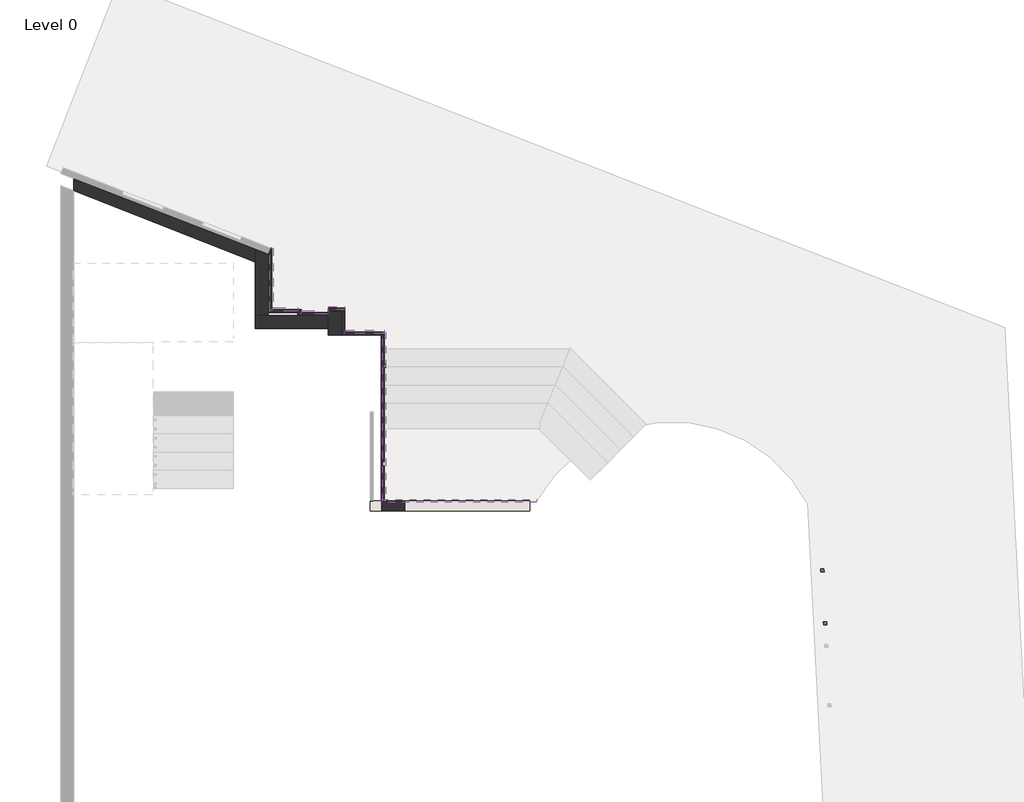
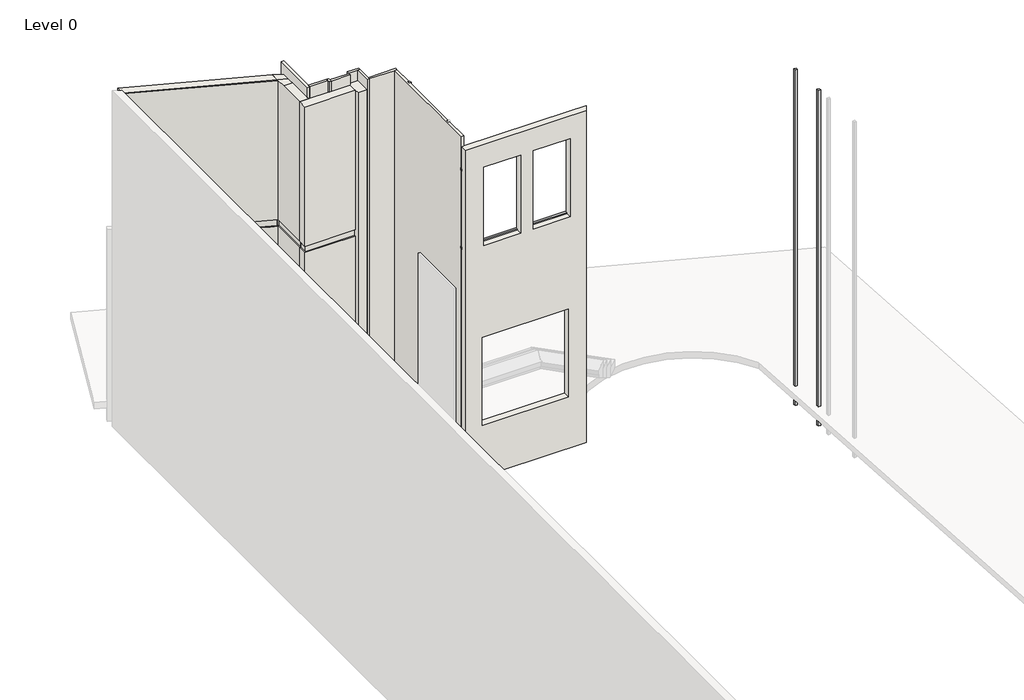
# One storey, part 2 of 6: 14 proxies, 13 walls.
"""IFC4 building model written with IfcOpenShell, lengths in millimetres."""

from ifc_helpers import new_model, si_unit, frame, origin, origin_with_axes, place, context, project, spatial, polyline, circle_curve, outline, extrude, faceted_brep, element, save
from ifc_brep_helpers import plane_surface, revolved_surface, advanced_brep

model = new_model("IFC4")

# Units and contexts
model_context = context("Model", 3, world=origin())
ifc_project = project(units=[si_unit("LENGTHUNIT", "METRE", prefix="MILLI")], contexts=[model_context])

# Site, building, storey
site = spatial("IfcSite", under=ifc_project)
building = spatial("IfcBuilding", under=site)
storey = spatial("IfcBuildingStorey", under=building, Name="Level 0", Elevation=0.0)

# Proxies
placement = place(None, origin())
element("IfcBuildingElementProxy", 1, Name="Reveal", ObjectType="Reveal", at=placement, inside=storey, context=model_context, shape_type="SweptSolid", body=[
    extrude(outline(polyline([(11423.4293749, 9089.7572087), (11473.3646878, 9092.299753), (11475.9072321, 9042.3644402), (11425.9719192, 9039.8218959), (11423.4293749, 9089.7572087)])), origin_with_axes(), (0.0, 0.0, 1.0), 7850.0),
])
element("IfcBuildingElementProxy", 2, Name="Reveal", ObjectType="Reveal", at=placement, inside=storey, context=model_context, shape_type="SweptSolid", body=[
    extrude(outline(polyline([(11464.8728464, 8275.8116094), (11514.8081593, 8278.3541537), (11517.3507035, 8228.4188408), (11467.4153907, 8225.8762966), (11464.8728464, 8275.8116094)])), origin_with_axes(), (0.0, 0.0, 1.0), 7850.0),
])
element("IfcBuildingElementProxy", 3, Name="Reveal", ObjectType="Reveal", at=placement, inside=storey, context=model_context, shape_type="SweptSolid", body=[
    extrude(outline(polyline([(2963.093022, 14021.3286894), (3013.093022, 14021.3286894), (3013.093022, 13076.3286894), (2963.093022, 13076.3286894), (2963.093022, 14021.3286894)])), frame((0.0, 0.0, 5475.0), z_axis=(0.0, 0.0, 1.0), x_axis=(1.0, 0.0, 0.0)), (0.0, 0.0, 1.0), 50.0),
])
element("IfcBuildingElementProxy", 4, Name="Reveal", ObjectType="Reveal", at=placement, inside=storey, context=model_context, shape_type="SweptSolid", body=[
    extrude(outline(polyline([(2963.093022, 14021.3286894), (3013.093022, 14021.3286894), (3013.093022, 13076.3286894), (2963.093022, 13076.3286894), (2963.093022, 14021.3286894)])), frame((0.0, 0.0, 3675.0), z_axis=(0.0, 0.0, 1.0), x_axis=(1.0, 0.0, 0.0)), (0.0, 0.0, 1.0), 50.0),
])
element("IfcBuildingElementProxy", 5, Name="Reveal", ObjectType="Reveal", at=placement, inside=storey, context=model_context, shape_type="SweptSolid", body=[
    extrude(outline(polyline([(2963.093022, 14021.3286894), (3013.093022, 14021.3286894), (3013.093022, 13076.3286894), (2963.093022, 13076.3286894), (2963.093022, 14021.3286894)])), frame((0.0, 0.0, 1895.0), z_axis=(0.0, 0.0, 1.0), x_axis=(1.0, 0.0, 0.0)), (0.0, 0.0, 1.0), 50.0),
])
element("IfcBuildingElementProxy", 6, Name="Reveal", ObjectType="Reveal", at=placement, inside=storey, context=model_context, shape_type="SweptSolid", body=[
    extrude(outline(polyline([(2963.093022, 14021.3286894), (3013.093022, 14021.3286894), (3013.093022, 13101.3286894), (2963.093022, 13051.3286894), (2963.093022, 14021.3286894)])), frame((0.0, 0.0, 7170.0), z_axis=(0.0, 0.0, 1.0), x_axis=(1.0, 0.0, 0.0)), (0.0, 0.0, 1.0), 50.0),
])
element("IfcBuildingElementProxy", 7, Name="Reveal", ObjectType="Reveal", at=placement, inside=storey, context=model_context, shape_type="SweptSolid", body=[
    extrude(outline(polyline([(2963.093022, 13051.3286894), (3013.093022, 13101.3286894), (3389.832395, 13101.3286894), (3389.832395, 13051.3286894), (2963.093022, 13051.3286894)])), frame((0.0, 0.0, 7170.0), z_axis=(0.0, 0.0, 1.0), x_axis=(1.0, 0.0, 0.0)), (0.0, 0.0, 1.0), 50.0),
])
element("IfcBuildingElementProxy", 8, Name="Reveal", ObjectType="Reveal", at=placement, inside=storey, context=model_context, shape_type="SweptSolid", body=[
    extrude(outline(polyline([(3439.832395, 13006.9409286), (3439.832395, 13056.9409286), (3860.156273, 13056.9409286), (3860.156273, 13006.9409286), (3439.832395, 13006.9409286)])), frame((0.0, 0.0, 7170.0), z_axis=(0.0, 0.0, 1.0), x_axis=(1.0, 0.0, 0.0)), (0.0, 0.0, 1.0), 50.0),
])
element("IfcBuildingElementProxy", 9, Name="Reveal", ObjectType="Reveal", at=placement, inside=storey, context=model_context, shape_type="SweptSolid", body=[
    extrude(outline(polyline([(3860.156273, 13071.3286894), (3860.156273, 13121.3286894), (4110.156273, 13121.3286894), (4110.156273, 13071.3286894), (3860.156273, 13071.3286894)])), frame((0.0, 0.0, 7170.0), z_axis=(0.0, 0.0, 1.0), x_axis=(1.0, 0.0, 0.0)), (0.0, 0.0, 1.0), 50.0),
])
element("IfcBuildingElementProxy", 10, Name="Reveal", ObjectType="Reveal", at=placement, inside=storey, context=model_context, shape_type="SweptSolid", body=[
    extrude(outline(polyline([(4110.156273, 12706.9436225), (4110.156273, 12756.9436225), (4720.156273, 12756.9436225), (4720.156273, 12706.9436225), (4110.156273, 12706.9436225)])), frame((0.0, 0.0, 7170.0), z_axis=(0.0, 0.0, 1.0), x_axis=(1.0, 0.0, 0.0)), (0.0, 0.0, 1.0), 50.0),
])
element("IfcBuildingElementProxy", 11, Name="Reveal", ObjectType="Reveal", at=placement, inside=storey, context=model_context, shape_type="SweptSolid", body=[
    extrude(outline(polyline([(4695.156273, 12731.9436225), (4745.156273, 12731.9436225), (4745.156273, 10131.7405588), (4695.156273, 10131.7405588), (4695.156273, 12731.9436225)])), frame((0.0, 0.0, 7165.0), z_axis=(0.0, 0.0, 1.0), x_axis=(1.0, 0.0, 0.0)), (0.0, 0.0, 1.0), 50.0),
])
element("IfcBuildingElementProxy", 12, Name="Reveal", ObjectType="Reveal", at=placement, inside=storey, context=model_context, shape_type="SweptSolid", body=[
    extrude(outline(polyline([(4695.156273, 12231.9436225), (4745.156273, 12231.9436225), (4745.156273, 12181.9436225), (4695.156273, 12181.9436225), (4695.156273, 12231.9436225)])), origin_with_axes(), (0.0, 0.0, 1.0), 8000.0),
])
element("IfcBuildingElementProxy", 13, Name="Reveal", ObjectType="Reveal", at=placement, inside=storey, context=model_context, shape_type="SweptSolid", body=[
    extrude(outline(polyline([(7059.3339263, 10156.7405588), (7059.3339263, 10106.7405588), (4670.0008952, 10106.7405588), (4670.0008952, 10156.7405588), (7059.3339263, 10156.7405588)])), frame((0.0, 0.0, 5375.0), z_axis=(0.0, 0.0, 1.0), x_axis=(1.0, 0.0, 0.0)), (0.0, 0.0, 1.0), 50.0),
])
element("IfcBuildingElementProxy", 14, Name="Reveal", ObjectType="Reveal", at=placement, inside=storey, context=model_context, shape_type="SweptSolid", body=[
    extrude(outline(polyline([(7059.3339263, 10156.7405588), (7059.3339263, 10106.7405588), (4670.0008952, 10106.7405588), (4670.0008952, 10156.7405588), (7059.3339263, 10156.7405588)])), frame((0.0, 0.0, 7205.0), z_axis=(0.0, 0.0, 1.0), x_axis=(1.0, 0.0, 0.0)), (0.0, 0.0, 1.0), 50.0),
])

# Walls
element("IfcWall", 15, ObjectType="Generic - 15cm-gypsum-kamposite 2", at=placement, inside=storey, context=model_context, shape_type="AdvancedBrep", body=[
    advanced_brep(
    [(7434.6632585, 10131.7405588, 0.0), (7059.3339263, 10131.7405588, 0.0), (4720.156273, 10131.7405588, 0.0), (4670.156273, 10131.7405588, 0.0), (4554.958768, 10131.7405588, 0.0), (4554.958768, 10131.7405588, 1000.0), (4499.6302337, 10131.7405588, 1000.0), (4499.6302337, 10131.7405588, 1200.0), (4670.0008952, 10131.7405588, 1200.0), (4670.0008952, 10131.7405588, 5375.0), (7059.3339263, 10131.7405588, 5375.0), (7059.3339263, 10131.7405588, 5425.0), (6995.156273, 10131.7405588, 5425.0), (6995.156273, 10131.7405588, 7205.0), (7059.3339263, 10131.7405588, 7205.0), (7059.3339263, 10131.7405588, 7255.0), (4670.0008952, 10131.7405588, 7255.0), (4670.0008952, 10131.7405588, 7759.0), (7059.3339263, 10131.7405588, 7759.0), (7434.6632585, 10131.7405588, 7759.0), (7434.6632585, 10131.7405588, 4500.0), (7434.6632585, 10131.7405588, 4350.0), (7434.6632585, 10131.7405588, 1200.0), (7434.6632585, 10131.7405588, 959.0), (5041.9492405, 10131.7405588, 3257.0), (5041.9492405, 10131.7405588, 1200.0), (6953.2178403, 10131.7405588, 1200.0), (6953.2178403, 10131.7405588, 3257.0), (5080.156273, 10131.7405588, 5425.0), (4670.0008952, 10131.7405588, 5425.0), (4670.0008952, 10131.7405588, 7205.0), (5080.156273, 10131.7405588, 7205.0), (6180.156273, 10131.7405588, 5425.0), (5895.156273, 10131.7405588, 5425.0), (5895.156273, 10131.7405588, 7205.0), (6180.156273, 10131.7405588, 7205.0), (4554.958768, 9981.7405588, 0.0), (7342.0772505, 9981.7405588, 0.0), (7342.0772505, 9981.7405588, 7759.0), (7150.5392732, 9981.7405588, 7759.0), (7000.5392732, 9981.7405588, 7759.0), (4670.0008952, 9981.7405588, 7759.0), (4670.0008952, 9981.7405588, 4500.0), (4670.0008952, 9981.7405588, 4350.0), (4670.0008952, 9981.7405588, 1200.0), (4499.6302337, 9981.7405588, 1200.0), (4499.6302337, 9981.7405588, 1000.0), (4554.958768, 9981.7405588, 1000.0), (5895.156273, 9981.7405588, 7230.0), (5895.156273, 9981.7405588, 5400.0), (5080.156273, 9981.7405588, 5400.0), (5080.156273, 9981.7405588, 7230.0), (6995.156273, 9981.7405588, 7230.0), (6995.156273, 9981.7405588, 5400.0), (6180.156273, 9981.7405588, 5400.0), (6180.156273, 9981.7405588, 7230.0), (5041.9492405, 9981.7405588, 1200.0), (5041.9492405, 9981.7405588, 3257.0), (6953.2178403, 9981.7405588, 3257.0), (6953.2178403, 9981.7405588, 1200.0), (4554.958768, 10056.7405588, 1000.0), (5895.156273, 10106.7405588, 7230.0), (5895.156273, 10106.7405588, 7205.0), (5895.156273, 10106.7405588, 5425.0), (5895.156273, 10106.7405588, 5400.0), (5080.156273, 10106.7405588, 7230.0), (5080.156273, 10106.7405588, 5400.0), (5080.156273, 10106.7405588, 5425.0), (5080.156273, 10106.7405588, 7205.0), (6995.156273, 10106.7405588, 7230.0), (6995.156273, 10106.7405588, 7205.0), (6995.156273, 10106.7405588, 5425.0), (6995.156273, 10106.7405588, 5400.0), (6180.156273, 10106.7405588, 7230.0), (6180.156273, 10106.7405588, 5400.0), (6180.156273, 10106.7405588, 5425.0), (6180.156273, 10106.7405588, 7205.0), (7059.3339263, 10106.7405588, 5375.0), (7059.3339263, 10106.7405588, 5425.0), (4670.0008952, 10106.7405588, 5375.0), (4670.0008952, 10106.7405588, 5425.0), (7059.3339263, 10106.7405588, 7205.0), (7059.3339263, 10106.7405588, 7255.0), (4670.0008952, 10106.7405588, 7205.0), (4670.0008952, 10106.7405588, 7255.0)],
    [
        (0, 1),
        (1, 2),
        (2, 3),
        (3, 4),
        (4, 5),
        (5, 6),
        (6, 7),
        (7, 8),
        (8, 9),
        (9, 10),
        (10, 11),
        (11, 12),
        (12, 13),
        (13, 14),
        (14, 15),
        (15, 16),
        (16, 17),
        (17, 18),
        (18, 19),
        (19, 20),
        (20, 21),
        (21, 22),
        (22, 23),
        (23, 0),
        (24, 25),
        (25, 26),
        (26, 27),
        (27, 24),
        (28, 29),
        (29, 30),
        (30, 31),
        (31, 28),
        (32, 33),
        (33, 34),
        (34, 35),
        (35, 32),
        (36, 37),
        (37, 38),
        (38, 39),
        (39, 40),
        (40, 41),
        (41, 42),
        (42, 43),
        (43, 44),
        (44, 45),
        (45, 46),
        (46, 47),
        (47, 36),
        (48, 49),
        (49, 50),
        (50, 51),
        (51, 48),
        (52, 53),
        (53, 54),
        (54, 55),
        (55, 52),
        (56, 57),
        (57, 58),
        (58, 59),
        (59, 56),
        (19, 38, circle_curve(frame((9131.2105116, 8980.9897456, 7759.0), z_axis=(0.0, 0.0, 1.0), x_axis=(0.9977285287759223, 0.06736306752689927, 0.0)), 2050.0000039)),
        (37, 0, circle_curve(frame((9131.2105116, 8980.9897456, 0.0), z_axis=(0.0, 0.0, -1.0), x_axis=(0.9977285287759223, 0.06736306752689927, 0.0)), 2050.0000039)),
        (17, 41),
        (4, 36),
        (47, 60),
        (60, 5),
        (6, 46),
        (45, 7),
        (48, 61),
        (61, 62),
        (62, 34),
        (33, 63),
        (63, 64),
        (64, 49),
        (51, 65),
        (65, 61),
        (50, 66),
        (66, 67),
        (67, 28),
        (31, 68),
        (68, 65),
        (64, 66),
        (52, 69),
        (69, 70),
        (70, 13),
        (12, 71),
        (71, 72),
        (72, 53),
        (55, 73),
        (73, 69),
        (54, 74),
        (74, 75),
        (75, 32),
        (35, 76),
        (76, 73),
        (72, 74),
        (44, 8),
        (24, 57),
        (56, 25),
        (59, 26),
        (58, 27),
        (77, 78),
        (78, 11),
        (10, 77),
        (77, 79),
        (79, 80),
        (80, 67),
        (63, 75),
        (71, 78),
        (9, 79),
        (80, 29),
        (81, 82),
        (82, 15),
        (14, 81),
        (81, 70),
        (76, 62),
        (68, 83),
        (83, 84),
        (84, 82),
        (30, 83),
        (84, 16),
    ],
    [
        plane_surface(frame((7370.9767928, 10131.7405588, 0.0), z_axis=(0.0, 1.0, 0.0), x_axis=(-1.0, 0.0, 0.0))),
        plane_surface(frame((7370.9767928, 9981.7405588, 0.0), z_axis=(0.0, -1.0, 0.0), x_axis=(1.0, 0.0, 0.0))),
        revolved_surface(polyline([(11176.553999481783, 9119.084034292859, 0.0), (11176.553999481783, 9119.084034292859, 7759.0)]), (9131.2105116, 8980.9897456, 0.0), (0.0, 0.0, -1.0)),
        plane_surface(frame((-80.0000039, 14947.4914079, 7759.0), z_axis=(0.0, 0.0, 1.0), x_axis=(0.930705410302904, -0.365769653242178, 0.0))),
        plane_surface(frame((4554.958768, 9219.4984209, -3500.0), z_axis=(-1.0, 0.0, 0.0), x_axis=(0.0, 1.0, 0.0))),
        plane_surface(frame((4499.6302337, 10019.4984209, -3500.0), z_axis=(-1.0, 0.0, 0.0), x_axis=(0.0, 1.0, 0.0))),
        plane_surface(frame((5895.156273, 10131.7405588, 5400.0), z_axis=(-1.0, 0.0, 0.0), x_axis=(0.0, -1.0, 0.0))),
        plane_surface(frame((5895.156273, 10131.7405588, 7230.0), z_axis=(0.0, 0.0, -1.0), x_axis=(0.0, -1.0, 0.0))),
        plane_surface(frame((5080.156273, 10131.7405588, 7230.0), z_axis=(1.0, 0.0, 0.0), x_axis=(0.0, -1.0, 0.0))),
        plane_surface(frame((5080.156273, 10131.7405588, 5400.0), z_axis=(0.0, 0.0, 1.0), x_axis=(0.0, -1.0, 0.0))),
        plane_surface(frame((6995.156273, 10131.7405588, 5400.0), z_axis=(-1.0, 0.0, 0.0), x_axis=(0.0, -1.0, 0.0))),
        plane_surface(frame((6995.156273, 10131.7405588, 7230.0), z_axis=(0.0, 0.0, -1.0), x_axis=(0.0, -1.0, 0.0))),
        plane_surface(frame((6180.156273, 10131.7405588, 7230.0), z_axis=(1.0, 0.0, 0.0), x_axis=(0.0, -1.0, 0.0))),
        plane_surface(frame((6180.156273, 10131.7405588, 5400.0), z_axis=(0.0, 0.0, 1.0), x_axis=(0.0, -1.0, 0.0))),
        plane_surface(frame((7200.7027532, 10131.7405588, 0.0), z_axis=(0.0, 0.0, -1.0), x_axis=(0.0, -1.0, 0.0))),
        plane_surface(frame((4449.6302337, 10131.7405588, 1000.0), z_axis=(0.0, 0.0, -1.0), x_axis=(1.0, 0.0, 0.0))),
        plane_surface(frame((4449.6302337, 10131.7405588, 1200.0), z_axis=(0.0, 0.0, 1.0), x_axis=(1.0, 0.0, 0.0))),
        plane_surface(frame((5041.9492405, 10131.7405588, 3257.0), z_axis=(1.0, 0.0, 0.0), x_axis=(0.0, -1.0, 0.0))),
        plane_surface(frame((5041.9492405, 10131.7405588, 1200.0), z_axis=(0.0, 0.0, 1.0), x_axis=(0.0, -1.0, 0.0))),
        plane_surface(frame((6953.2178403, 10131.7405588, 1200.0), z_axis=(-1.0, 0.0, 0.0), x_axis=(0.0, -1.0, 0.0))),
        plane_surface(frame((6953.2178403, 10131.7405588, 3257.0), z_axis=(0.0, 0.0, -1.0), x_axis=(0.0, -1.0, 0.0))),
        plane_surface(frame((7059.3339263, 10131.7405588, 5364.6446609), z_axis=(-1.0, 0.0, 0.0), x_axis=(0.0, -1.0, 0.0))),
        plane_surface(frame((7059.3339263, 10106.7405588, 5425.0), z_axis=(0.0, 1.0, 0.0), x_axis=(-1.0, 0.0, 0.0))),
        plane_surface(frame((7059.3339263, 10106.7405588, 5375.0), z_axis=(0.0, 0.0, 1.0), x_axis=(-1.0, 0.0, 0.0))),
        plane_surface(frame((7059.3339263, 10156.7405588, 5425.0), z_axis=(0.0, 0.0, -1.0), x_axis=(-1.0, 0.0, 0.0))),
        plane_surface(frame((7059.3339263, 10131.7405588, 7194.6446609), z_axis=(-1.0, 0.0, 0.0), x_axis=(0.0, -1.0, 0.0))),
        plane_surface(frame((7059.3339263, 10106.7405588, 7255.0), z_axis=(0.0, 1.0, 0.0), x_axis=(-1.0, 0.0, 0.0))),
        plane_surface(frame((7059.3339263, 10106.7405588, 7205.0), z_axis=(0.0, 0.0, 1.0), x_axis=(-1.0, 0.0, 0.0))),
        plane_surface(frame((7059.3339263, 10156.7405588, 7255.0), z_axis=(0.0, 0.0, -1.0), x_axis=(-1.0, 0.0, 0.0))),
        plane_surface(frame((4670.0008952, 10084.7405581, 1200.0), z_axis=(-1.0, 0.0, 0.0), x_axis=(0.0, 1.0, 0.0))),
    ],
    [
        (0, [[1, 2, 3, 4, 5, 6, 7, 8, 9, 10, 11, 12, 13, 14, 15, 16, 17, 18, 19, 20, 21, 22, 23, 24], [25, 26, 27, 28]]),
        (0, [[29, 30, 31, 32]]),
        (0, [[33, 34, 35, 36]]),
        (1, [[37, 38, 39, 40, 41, 42, 43, 44, 45, 46, 47, 48], [49, 50, 51, 52], [53, 54, 55, 56], [57, 58, 59, 60]]),
        (2, [[-24, -23, -22, -21, -20, 61, -38, 62]]),
        (3, [[-19, -18, 63, -41, -40, -39, -61]]),
        (4, [[-5, 64, -48, 65, 66]]),
        (5, [[-7, 67, -46, 68]]),
        (6, [[-49, 69, 70, 71, -34, 72, 73, 74]]),
        (7, [[-52, 75, 76, -69]]),
        (8, [[-51, 77, 78, 79, -32, 80, 81, -75]]),
        (9, [[-50, -74, 82, -77]]),
        (10, [[-53, 83, 84, 85, -13, 86, 87, 88]]),
        (11, [[-56, 89, 90, -83]]),
        (12, [[-55, 91, 92, 93, -36, 94, 95, -89]]),
        (13, [[-54, -88, 96, -91]]),
        (14, [[-4, -3, -2, -1, -62, -37, -64]]),
        (15, [[-6, -66, -65, -47, -67]]),
        (16, [[-8, -68, -45, 97]]),
        (17, [[-25, 98, -57, 99]]),
        (18, [[-26, -99, -60, 100]]),
        (19, [[-27, -100, -59, 101]]),
        (20, [[-28, -101, -58, -98]]),
        (21, [[102, 103, -11, 104]]),
        (22, [[-102, 105, 106, 107, -78, -82, -73, 108, -92, -96, -87, 109]]),
        (23, [[-105, -104, -10, 110]]),
        (24, [[-103, -109, -86, -12]]),
        (24, [[-107, 111, -29, -79]]),
        (24, [[-108, -72, -33, -93]]),
        (25, [[112, 113, -15, 114]]),
        (26, [[-112, 115, -84, -90, -95, 116, -70, -76, -81, 117, 118, 119]]),
        (27, [[-114, -14, -85, -115]]),
        (27, [[-117, -80, -31, 120]]),
        (27, [[-116, -94, -35, -71]]),
        (28, [[-119, 121, -16, -113]]),
        (29, [[-97, -44, -43, -42, -63, -17, -121, -118, -120, -30, -111, -106, -110, -9]]),
    ],
),
])
element("IfcWall", 16, ObjectType="kamposite5cm", at=placement, inside=storey, context=model_context, shape_type="Brep", body=[
    faceted_brep([(2938.093022, 14021.3286894, 0.0), (2938.093022, 13026.3286894, 0.0), (2938.093022, 13026.3286894, 8000.0), (2938.093022, 14021.3286894, 8000.0), (2988.093022, 13026.3286894, 0.0), (2988.093022, 13076.3286894, 0.0), (2988.093022, 14021.3286894, 0.0), (2988.093022, 14021.3286894, 1895.0), (2988.093022, 13076.3286894, 1895.0), (2988.093022, 13076.3286894, 1910.8841872), (2988.093022, 13076.3286894, 1945.0), (2988.093022, 14021.3286894, 1945.0), (2988.093022, 14021.3286894, 3675.0), (2988.093022, 13076.3286894, 3675.0), (2988.093022, 13076.3286894, 3719.8841872), (2988.093022, 13076.3286894, 3725.0), (2988.093022, 14021.3286894, 3725.0), (2988.093022, 14021.3286894, 5475.0), (2988.093022, 13076.3286894, 5475.0), (2988.093022, 13076.3286894, 5525.0), (2988.093022, 14021.3286894, 5525.0), (2988.093022, 14021.3286894, 7170.0), (2988.093022, 13076.3286894, 7170.0), (2988.093022, 13051.3286894, 7170.0), (2988.093022, 13051.3286894, 7220.0), (2988.093022, 13076.3286894, 7220.0), (2988.093022, 14021.3286894, 7220.0), (2988.093022, 14021.3286894, 8000.0), (2988.093022, 13076.3286894, 8000.0), (2988.093022, 13026.3286894, 8000.0), (2963.093022, 14021.3286894, 7220.0), (2963.093022, 14021.3286894, 7170.0), (2963.093022, 14021.3286894, 5525.0), (2963.093022, 14021.3286894, 5475.0), (2963.093022, 14021.3286894, 3725.0), (2963.093022, 14021.3286894, 3675.0), (2963.093022, 14021.3286894, 1945.0), (2963.093022, 14021.3286894, 1895.0), (2963.093022, 13076.3286894, 5475.0), (2963.093022, 13076.3286894, 5525.0), (2963.093022, 13076.3286894, 3675.0), (2963.093022, 13076.3286894, 3725.0), (2963.093022, 13076.3286894, 1895.0), (2963.093022, 13076.3286894, 1945.0), (2963.093022, 13051.3286894, 7220.0), (2963.093022, 13051.3286894, 7170.0)], [[[0, 1, 2, 3]], [[4, 5, 6, 7, 8, 9, 10, 11, 12, 13, 14, 15, 16, 17, 18, 19, 20, 21, 22, 23, 24, 25, 26, 27, 28, 29]], [[1, 0, 6, 5, 4]], [[3, 2, 29, 28, 27]], [[0, 3, 27, 26, 30, 31, 21, 20, 32, 33, 17, 16, 34, 35, 12, 11, 36, 37, 7, 6]], [[2, 1, 4, 29]], [[38, 39, 19, 18]], [[39, 32, 20, 19]], [[33, 38, 18, 17]], [[39, 38, 33, 32]], [[40, 41, 15, 14, 13]], [[41, 34, 16, 15]], [[35, 40, 13, 12]], [[41, 40, 35, 34]], [[42, 43, 10, 9, 8]], [[43, 36, 11, 10]], [[37, 42, 8, 7]], [[43, 42, 37, 36]], [[44, 30, 26, 25, 24]], [[31, 45, 23, 22, 21]], [[30, 44, 45, 31]], [[45, 44, 24, 23]]]),
])
element("IfcWall", 17, ObjectType="kamposite5cm", at=placement, inside=storey, context=model_context, shape_type="Brep", body=[
    faceted_brep([(2988.093022, 13026.3286894, 0.0), (3389.832395, 13026.3286894, 0.0), (3389.832395, 13026.3286894, 8000.0), (2988.093022, 13026.3286894, 8000.0), (3389.832395, 13076.3286894, 0.0), (2988.093022, 13076.3286894, 0.0), (2988.093022, 13076.3286894, 1895.0), (2988.093022, 13076.3286894, 1910.8841872), (3389.832395, 13076.3286894, 1910.8841872), (2988.093022, 13076.3286894, 8000.0), (3389.832395, 13076.3286894, 8000.0), (3389.832395, 13076.3286894, 7220.0), (2988.093022, 13076.3286894, 7220.0), (2988.093022, 13076.3286894, 7170.0), (3389.832395, 13076.3286894, 7170.0), (3389.832395, 13076.3286894, 5461.0), (2988.093022, 13076.3286894, 5461.0), (2988.093022, 13076.3286894, 5475.0), (2988.093022, 13076.3286894, 5525.0), (2988.093022, 13076.3286894, 5411.0), (3389.832395, 13076.3286894, 5411.0), (3389.832395, 13076.3286894, 3719.8841872), (2988.093022, 13076.3286894, 3719.8841872), (2988.093022, 13076.3286894, 3725.0), (2988.093022, 13076.3286894, 3669.8841872), (3389.832395, 13076.3286894, 3669.8841872), (3389.832395, 13076.3286894, 1960.8841872), (2988.093022, 13076.3286894, 1960.8841872), (2988.093022, 13051.3286894, 7220.0), (2988.093022, 13051.3286894, 7170.0), (2988.093022, 13051.3286894, 5461.0), (2988.093022, 13051.3286894, 5411.0), (2988.093022, 13051.3286894, 3719.8841872), (2988.093022, 13051.3286894, 3669.8841872), (2988.093022, 13051.3286894, 1960.8841872), (2988.093022, 13051.3286894, 1910.8841872), (3389.832395, 13051.3286894, 1910.8841872), (3389.832395, 13051.3286894, 1960.8841872), (3389.832395, 13051.3286894, 3669.8841872), (3389.832395, 13051.3286894, 3719.8841872), (3389.832395, 13051.3286894, 5411.0), (3389.832395, 13051.3286894, 5461.0), (3389.832395, 13051.3286894, 7170.0), (3389.832395, 13051.3286894, 7220.0)], [[[0, 1, 2, 3]], [[4, 5, 6, 7, 8]], [[9, 10, 11, 12]], [[13, 14, 15, 16, 17, 18]], [[19, 20, 21, 22, 23]], [[24, 25, 26, 27]], [[1, 0, 5, 4]], [[3, 2, 10, 9]], [[0, 3, 9, 12, 28, 29, 13, 18, 17, 16, 30, 31, 19, 23, 22, 32, 33, 24, 27, 34, 35, 7, 6, 5]], [[2, 1, 4, 8, 36, 37, 26, 25, 38, 39, 21, 20, 40, 41, 15, 14, 42, 43, 11, 10]], [[43, 28, 12, 11]], [[29, 42, 14, 13]], [[28, 43, 42, 29]], [[41, 30, 16, 15]], [[31, 40, 20, 19]], [[30, 41, 40, 31]], [[39, 32, 22, 21]], [[33, 38, 25, 24]], [[32, 39, 38, 33]], [[37, 34, 27, 26]], [[35, 36, 8, 7]], [[34, 37, 36, 35]]]),
])
element("IfcWall", 18, ObjectType="kamposite5cm", at=placement, inside=storey, context=model_context, shape_type="Brep", body=[
    faceted_brep([(3389.832395, 13076.3286894, 0.0), (3389.832395, 13026.3286894, 0.0), (3389.832395, 12981.9409286, 0.0), (3389.832395, 12981.9409286, 8000.0), (3389.832395, 13026.3286894, 8000.0), (3389.832395, 13076.3286894, 8000.0), (3389.832395, 13076.3286894, 7220.0), (3389.832395, 13076.3286894, 7170.0), (3389.832395, 13076.3286894, 5461.0), (3389.832395, 13076.3286894, 5411.0), (3389.832395, 13076.3286894, 3719.8841872), (3389.832395, 13076.3286894, 3669.8841872), (3389.832395, 13076.3286894, 1960.8841872), (3389.832395, 13076.3286894, 1910.8841872), (3439.832395, 13076.3286894, 0.0), (3439.832395, 13076.3286894, 8000.0), (3439.832395, 13031.9409286, 8000.0), (3439.832395, 12981.9409286, 8000.0), (3439.832395, 12981.9409286, 0.0), (3439.832395, 13031.9409286, 0.0)], [[[0, 1, 2, 3, 4, 5, 6, 7, 8, 9, 10, 11, 12, 13]], [[14, 15, 16, 17, 18, 19]], [[2, 1, 0, 14, 19, 18]], [[5, 4, 3, 17, 16, 15]], [[0, 13, 12, 11, 10, 9, 8, 7, 6, 5, 15, 14]], [[3, 2, 18, 17]]]),
])
element("IfcWall", 19, ObjectType="kamposite5cm", at=placement, inside=storey, context=model_context, shape_type="SweptSolid", body=[
    extrude(outline(polyline([(12981.9409286, 0.0), (12981.9409286, 8000.0), (13031.9409286, 8000.0), (13031.9409286, 7220.0), (13006.9409286, 7220.0), (13006.9409286, 7170.0), (13031.9409286, 7170.0), (13031.9409286, 5461.0), (13006.9409286, 5461.0), (13006.9409286, 5411.0), (13031.9409286, 5411.0), (13031.9409286, 3719.8841872), (13006.9409286, 3719.8841872), (13006.9409286, 3669.8841872), (13031.9409286, 3669.8841872), (13031.9409286, 1960.8841872), (13006.9409286, 1960.8841872), (13006.9409286, 1910.8841872), (13031.9409286, 1910.8841872), (13031.9409286, 0.0), (12981.9409286, 0.0)])), frame((3439.832395, 0.0, 0.0), z_axis=(1.0, 0.0, 0.0), x_axis=(0.0, 1.0, 0.0)), (0.0, 0.0, 1.0), 420.3238781),
])
element("IfcWall", 20, ObjectType="kamposite5cm", at=placement, inside=storey, context=model_context, shape_type="Brep", body=[
    faceted_brep([(3860.156273, 13046.3286894, 0.0), (4060.156273, 13046.3286894, 0.0), (4110.156273, 13046.3286894, 0.0), (4110.156273, 13046.3286894, 8000.0), (4060.156273, 13046.3286894, 8000.0), (3860.156273, 13046.3286894, 8000.0), (3860.156273, 13046.3286894, 7759.0), (4110.156273, 13096.3286894, 0.0), (3860.156273, 13096.3286894, 0.0), (3860.156273, 13096.3286894, 1910.8841872), (4110.156273, 13096.3286894, 1910.8841872), (3860.156273, 13096.3286894, 8000.0), (4110.156273, 13096.3286894, 8000.0), (4110.156273, 13096.3286894, 7220.0), (3860.156273, 13096.3286894, 7220.0), (3860.156273, 13096.3286894, 7170.0), (4110.156273, 13096.3286894, 7170.0), (4110.156273, 13096.3286894, 5461.0), (3860.156273, 13096.3286894, 5461.0), (3860.156273, 13096.3286894, 5411.0), (4110.156273, 13096.3286894, 5411.0), (4110.156273, 13096.3286894, 3719.8841872), (3860.156273, 13096.3286894, 3719.8841872), (3860.156273, 13096.3286894, 3669.8841872), (4110.156273, 13096.3286894, 3669.8841872), (4110.156273, 13096.3286894, 1960.8841872), (3860.156273, 13096.3286894, 1960.8841872), (4110.156273, 13071.3286894, 1910.8841872), (4110.156273, 13071.3286894, 1960.8841872), (4110.156273, 13071.3286894, 3669.8841872), (4110.156273, 13071.3286894, 3719.8841872), (4110.156273, 13071.3286894, 5411.0), (4110.156273, 13071.3286894, 5461.0), (4110.156273, 13071.3286894, 7170.0), (4110.156273, 13071.3286894, 7220.0), (3860.156273, 13071.3286894, 7220.0), (3860.156273, 13071.3286894, 7170.0), (3860.156273, 13071.3286894, 5461.0), (3860.156273, 13071.3286894, 5411.0), (3860.156273, 13071.3286894, 3719.8841872), (3860.156273, 13071.3286894, 3669.8841872), (3860.156273, 13071.3286894, 1960.8841872), (3860.156273, 13071.3286894, 1910.8841872)], [[[0, 1, 2, 3, 4, 5, 6]], [[7, 8, 9, 10]], [[11, 12, 13, 14]], [[15, 16, 17, 18]], [[19, 20, 21, 22]], [[23, 24, 25, 26]], [[2, 1, 0, 8, 7]], [[5, 4, 3, 12, 11]], [[3, 2, 7, 10, 27, 28, 25, 24, 29, 30, 21, 20, 31, 32, 17, 16, 33, 34, 13, 12]], [[0, 6, 5, 11, 14, 35, 36, 15, 18, 37, 38, 19, 22, 39, 40, 23, 26, 41, 42, 9, 8]], [[34, 35, 14, 13]], [[36, 33, 16, 15]], [[35, 34, 33, 36]], [[32, 37, 18, 17]], [[38, 31, 20, 19]], [[37, 32, 31, 38]], [[30, 39, 22, 21]], [[40, 29, 24, 23]], [[39, 30, 29, 40]], [[28, 41, 26, 25]], [[42, 27, 10, 9]], [[41, 28, 27, 42]]]),
])
element("IfcWall", 21, ObjectType="kamposite5cm", at=placement, inside=storey, context=model_context, shape_type="Brep", body=[
    faceted_brep([(4060.156273, 13046.3286894, 0.0), (4060.156273, 12681.9436225, 0.0), (4060.156273, 12681.9436225, 1200.0), (4060.156273, 12681.9409286, 8000.0), (4060.156273, 13046.3286894, 8000.0), (4110.156273, 13046.3286894, 0.0), (4110.156273, 13046.3286894, 8000.0), (4110.156273, 12731.9436225, 8000.0), (4110.156273, 12681.9409286, 8000.0), (4110.156273, 12681.9409286, 1200.0), (4110.156273, 12681.9436225, 0.0), (4110.156273, 12731.9436225, 0.0)], [[[0, 1, 2, 3, 4]], [[5, 6, 7, 8, 9, 10, 11]], [[1, 0, 5, 11, 10]], [[4, 3, 8, 7, 6]], [[0, 4, 6, 5]], [[2, 1, 10, 9]], [[2, 9, 8, 3]]]),
])
element("IfcWall", 22, ObjectType="kamposite5cm", at=placement, inside=storey, context=model_context, shape_type="Brep", body=[
    faceted_brep([(4110.156273, 12681.9436225, 0.0), (4670.156273, 12681.9436225, 0.0), (4720.156273, 12681.9436225, 0.0), (4720.156273, 12681.9436225, 1905.8841872), (4695.156273, 12681.9436225, 1905.8841872), (4695.156273, 12681.9436225, 1955.8841872), (4720.156273, 12681.9436225, 1955.8841872), (4720.156273, 12681.9436225, 3664.8841872), (4695.156273, 12681.9436225, 3664.8841872), (4695.156273, 12681.9436225, 3714.8841872), (4720.156273, 12681.9436225, 3714.8841872), (4720.156273, 12681.9436225, 5406.0), (4695.156273, 12681.9436225, 5406.0), (4695.156273, 12681.9436225, 5456.0), (4720.156273, 12681.9436225, 5456.0), (4720.156273, 12681.9436225, 7165.0), (4695.156273, 12681.9436225, 7165.0), (4695.156273, 12681.9436225, 7215.0), (4720.156273, 12681.9436225, 7215.0), (4720.156273, 12681.9436225, 8000.0), (4670.156273, 12681.9436225, 8000.0), (4110.156273, 12681.9436225, 8000.0), (4720.156273, 12731.9436225, 0.0), (4110.156273, 12731.9436225, 0.0), (4110.156273, 12731.9436225, 1910.8841872), (4695.156273, 12731.9436225, 1910.8841872), (4695.156273, 12731.9436225, 1905.8841872), (4720.156273, 12731.9436225, 1905.8841872), (4110.156273, 12731.9436225, 8000.0), (4720.156273, 12731.9436225, 8000.0), (4720.156273, 12731.9436225, 7220.0), (4110.156273, 12731.9436225, 7220.0), (4110.156273, 12731.9436225, 7170.0), (4695.156273, 12731.9436225, 7170.0), (4695.156273, 12731.9436225, 7165.0), (4720.156273, 12731.9436225, 7165.0), (4720.156273, 12731.9436225, 5461.0), (4110.156273, 12731.9436225, 5461.0), (4110.156273, 12731.9436225, 5411.0), (4695.156273, 12731.9436225, 5411.0), (4695.156273, 12731.9436225, 5406.0), (4720.156273, 12731.9436225, 5406.0), (4720.156273, 12731.9436225, 3719.8841872), (4110.156273, 12731.9436225, 3719.8841872), (4110.156273, 12731.9436225, 3669.8841872), (4695.156273, 12731.9436225, 3669.8841872), (4695.156273, 12731.9436225, 3664.8841872), (4720.156273, 12731.9436225, 3664.8841872), (4720.156273, 12731.9436225, 1960.8841872), (4110.156273, 12731.9436225, 1960.8841872), (4110.156273, 12706.9436225, 7220.0), (4110.156273, 12706.9436225, 7170.0), (4110.156273, 12706.9436225, 5461.0), (4110.156273, 12706.9436225, 5411.0), (4110.156273, 12706.9436225, 3719.8841872), (4110.156273, 12706.9436225, 3669.8841872), (4110.156273, 12706.9436225, 1960.8841872), (4110.156273, 12706.9436225, 1910.8841872), (4720.156273, 12706.9436225, 7215.0), (4720.156273, 12706.9436225, 7220.0), (4720.156273, 12706.9436225, 5456.0), (4720.156273, 12706.9436225, 5461.0), (4720.156273, 12706.9436225, 3714.8841872), (4720.156273, 12706.9436225, 3719.8841872), (4720.156273, 12706.9436225, 1955.8841872), (4720.156273, 12706.9436225, 1960.8841872), (4695.156273, 12706.9436225, 7170.0), (4695.156273, 12706.9436225, 7215.0), (4695.156273, 12706.9436225, 5411.0), (4695.156273, 12706.9436225, 5456.0), (4695.156273, 12706.9436225, 3669.8841872), (4695.156273, 12706.9436225, 3714.8841872), (4695.156273, 12706.9436225, 1910.8841872), (4695.156273, 12706.9436225, 1955.8841872)], [[[0, 1, 2, 3, 4, 5, 6, 7, 8, 9, 10, 11, 12, 13, 14, 15, 16, 17, 18, 19, 20, 21]], [[22, 23, 24, 25, 26, 27]], [[28, 29, 30, 31]], [[32, 33, 34, 35, 36, 37]], [[38, 39, 40, 41, 42, 43]], [[44, 45, 46, 47, 48, 49]], [[2, 1, 0, 23, 22]], [[21, 20, 19, 29, 28]], [[0, 21, 28, 31, 50, 51, 32, 37, 52, 53, 38, 43, 54, 55, 44, 49, 56, 57, 24, 23]], [[2, 22, 27, 3]], [[29, 19, 18, 58, 59, 30]], [[35, 15, 14, 60, 61, 36]], [[41, 11, 10, 62, 63, 42]], [[47, 7, 6, 64, 65, 48]], [[59, 50, 31, 30]], [[32, 51, 66, 33]], [[50, 59, 58, 67, 66, 51]], [[17, 67, 58, 18]], [[34, 16, 15, 35]], [[67, 17, 16, 34, 33, 66]], [[61, 52, 37, 36]], [[38, 53, 68, 39]], [[52, 61, 60, 69, 68, 53]], [[13, 69, 60, 14]], [[40, 12, 11, 41]], [[69, 13, 12, 40, 39, 68]], [[63, 54, 43, 42]], [[44, 55, 70, 45]], [[54, 63, 62, 71, 70, 55]], [[9, 71, 62, 10]], [[46, 8, 7, 47]], [[71, 9, 8, 46, 45, 70]], [[65, 56, 49, 48]], [[24, 57, 72, 25]], [[56, 65, 64, 73, 72, 57]], [[5, 73, 64, 6]], [[26, 4, 3, 27]], [[73, 5, 4, 26, 25, 72]]]),
])
element("IfcWall", 23, ObjectType="kamposite5cm", at=placement, inside=storey, context=model_context, shape_type="Brep", body=[
    faceted_brep([(4670.156273, 12681.9436225, 0.0), (4670.156273, 10131.7405588, 0.0), (4670.156273, 10131.7405588, 1200.0), (4670.156273, 10131.7405588, 5375.0), (4670.156273, 10131.7405588, 5425.0), (4670.156273, 10131.7405588, 7205.0), (4670.156273, 10131.7405588, 7255.0), (4670.156273, 10131.7405588, 7759.0), (4670.156273, 10131.7405588, 8000.0), (4670.156273, 12681.9436225, 8000.0), (4720.156273, 12681.9436225, 7215.0), (4720.156273, 12681.9436225, 8000.0), (4720.156273, 12231.9436225, 8000.0), (4720.156273, 12231.9436225, 7215.0), (4720.156273, 12681.9436225, 5456.0), (4720.156273, 12681.9436225, 7165.0), (4720.156273, 12231.9436225, 7165.0), (4720.156273, 12231.9436225, 5456.0), (4720.156273, 12681.9436225, 3714.8841872), (4720.156273, 12681.9436225, 5406.0), (4720.156273, 12231.9436225, 5406.0), (4720.156273, 12231.9436225, 3714.8841872), (4720.156273, 12681.9436225, 1955.8841872), (4720.156273, 12681.9436225, 3664.8841872), (4720.156273, 12231.9436225, 3664.8841872), (4720.156273, 12231.9436225, 1955.8841872), (4720.156273, 12681.9436225, 0.0), (4720.156273, 12681.9436225, 1905.8841872), (4720.156273, 12231.9436225, 1905.8841872), (4720.156273, 12231.9436225, 0.0), (4720.156273, 12181.9436225, 0.0), (4720.156273, 12181.9436225, 1905.8841872), (4720.156273, 10731.9436225, 1905.8841872), (4720.156273, 10731.9436225, 0.0), (4720.156273, 12181.9436225, 7215.0), (4720.156273, 12181.9436225, 8000.0), (4720.156273, 10731.9436225, 8000.0), (4720.156273, 10731.9436225, 7215.0), (4720.156273, 12181.9436225, 5456.0), (4720.156273, 12181.9436225, 7165.0), (4720.156273, 10731.9436225, 7165.0), (4720.156273, 10731.9436225, 5456.0), (4720.156273, 12181.9436225, 3714.8841872), (4720.156273, 12181.9436225, 5406.0), (4720.156273, 10731.9436225, 5406.0), (4720.156273, 10731.9436225, 3714.8841872), (4720.156273, 12181.9436225, 1955.8841872), (4720.156273, 12181.9436225, 3664.8841872), (4720.156273, 10731.9436225, 3664.8841872), (4720.156273, 10731.9436225, 1955.8841872), (4720.156273, 10131.7405588, 8000.0), (4720.156273, 10131.7405588, 7215.0), (4720.156273, 10681.9436225, 7215.0), (4720.156273, 10681.9436225, 8000.0), (4720.156273, 10131.7405588, 7165.0), (4720.156273, 10131.7405588, 5456.0), (4720.156273, 10681.9436225, 5456.0), (4720.156273, 10681.9436225, 7165.0), (4720.156273, 10131.7405588, 5406.0), (4720.156273, 10131.7405588, 3714.8841872), (4720.156273, 10681.9436225, 3714.8841872), (4720.156273, 10681.9436225, 5406.0), (4720.156273, 10131.7405588, 3664.8841872), (4720.156273, 10131.7405588, 1955.8841872), (4720.156273, 10681.9436225, 1955.8841872), (4720.156273, 10681.9436225, 3664.8841872), (4720.156273, 10131.7405588, 1905.8841872), (4720.156273, 10131.7405588, 0.0), (4720.156273, 10681.9436225, 0.0), (4720.156273, 10681.9436225, 1905.8841872), (4695.156273, 12231.9436225, 0.0), (4695.156273, 12181.9436225, 0.0), (4695.156273, 10731.9436225, 0.0), (4695.156273, 10681.9436225, 0.0), (4695.156273, 10681.9436225, 8000.0), (4695.156273, 10731.9436225, 8000.0), (4695.156273, 12181.9436225, 8000.0), (4695.156273, 12231.9436225, 8000.0), (4695.156273, 12681.9436225, 7215.0), (4695.156273, 12681.9436225, 7165.0), (4695.156273, 12681.9436225, 5456.0), (4695.156273, 12681.9436225, 5406.0), (4695.156273, 12681.9436225, 3714.8841872), (4695.156273, 12681.9436225, 3664.8841872), (4695.156273, 12681.9436225, 1955.8841872), (4695.156273, 12681.9436225, 1905.8841872), (4695.156273, 12231.9436225, 7215.0), (4695.156273, 12181.9436225, 7215.0), (4695.156273, 10731.9436225, 7215.0), (4695.156273, 10681.9436225, 7215.0), (4695.156273, 10131.7405588, 7215.0), (4695.156273, 10131.7405588, 7165.0), (4695.156273, 10681.9436225, 7165.0), (4695.156273, 10681.9436225, 5456.0), (4695.156273, 10131.7405588, 5456.0), (4695.156273, 10131.7405588, 5406.0), (4695.156273, 10681.9436225, 5406.0), (4695.156273, 10681.9436225, 3714.8841872), (4695.156273, 10131.7405588, 3714.8841872), (4695.156273, 10131.7405588, 3664.8841872), (4695.156273, 10681.9436225, 3664.8841872), (4695.156273, 10681.9436225, 1955.8841872), (4695.156273, 10131.7405588, 1955.8841872), (4695.156273, 10131.7405588, 1905.8841872), (4695.156273, 10681.9436225, 1905.8841872), (4695.156273, 10731.9436225, 1905.8841872), (4695.156273, 12181.9436225, 1905.8841872), (4695.156273, 12231.9436225, 1905.8841872), (4695.156273, 12231.9436225, 1955.8841872), (4695.156273, 12231.9436225, 3664.8841872), (4695.156273, 12231.9436225, 3714.8841872), (4695.156273, 12231.9436225, 5406.0), (4695.156273, 12231.9436225, 5456.0), (4695.156273, 12231.9436225, 7165.0), (4695.156273, 12181.9436225, 5456.0), (4695.156273, 10731.9436225, 5456.0), (4695.156273, 10731.9436225, 7165.0), (4695.156273, 12181.9436225, 7165.0), (4695.156273, 12181.9436225, 3714.8841872), (4695.156273, 10731.9436225, 3714.8841872), (4695.156273, 10731.9436225, 5406.0), (4695.156273, 12181.9436225, 5406.0), (4695.156273, 12181.9436225, 1955.8841872), (4695.156273, 10731.9436225, 1955.8841872), (4695.156273, 10731.9436225, 3664.8841872), (4695.156273, 12181.9436225, 3664.8841872)], [[[0, 1, 2, 3, 4, 5, 6, 7, 8, 9]], [[10, 11, 12, 13]], [[14, 15, 16, 17]], [[18, 19, 20, 21]], [[22, 23, 24, 25]], [[26, 27, 28, 29]], [[30, 31, 32, 33]], [[34, 35, 36, 37]], [[38, 39, 40, 41]], [[42, 43, 44, 45]], [[46, 47, 48, 49]], [[50, 51, 52, 53]], [[54, 55, 56, 57]], [[58, 59, 60, 61]], [[62, 63, 64, 65]], [[66, 67, 68, 69]], [[1, 0, 26, 29, 70, 71, 30, 33, 72, 73, 68, 67]], [[9, 8, 50, 53, 74, 75, 36, 35, 76, 77, 12, 11]], [[0, 9, 11, 10, 78, 79, 15, 14, 80, 81, 19, 18, 82, 83, 23, 22, 84, 85, 27, 26]], [[79, 78, 86, 77, 76, 87, 88, 75, 74, 89, 90, 91, 92, 93, 94, 95, 96, 97, 98, 99, 100, 101, 102, 103, 104, 73, 72, 105, 106, 71, 70, 107, 85, 84, 108, 109, 83, 82, 110, 111, 81, 80, 112, 113], [114, 115, 116, 117], [118, 119, 120, 121], [122, 123, 124, 125]], [[78, 10, 13, 86]], [[87, 34, 37, 88]], [[51, 90, 89, 52]], [[15, 79, 113, 16]], [[39, 117, 116, 40]], [[91, 54, 57, 92]], [[80, 14, 17, 112]], [[114, 38, 41, 115]], [[55, 94, 93, 56]], [[19, 81, 111, 20]], [[43, 121, 120, 44]], [[95, 58, 61, 96]], [[82, 18, 21, 110]], [[118, 42, 45, 119]], [[59, 98, 97, 60]], [[23, 83, 109, 24]], [[47, 125, 124, 48]], [[99, 62, 65, 100]], [[84, 22, 25, 108]], [[122, 46, 49, 123]], [[63, 102, 101, 64]], [[27, 85, 107, 28]], [[31, 106, 105, 32]], [[103, 66, 69, 104]], [[77, 86, 13, 12]], [[113, 112, 17, 16]], [[111, 110, 21, 20]], [[109, 108, 25, 24]], [[107, 70, 29, 28]], [[87, 76, 35, 34]], [[114, 117, 39, 38]], [[118, 121, 43, 42]], [[122, 125, 47, 46]], [[71, 106, 31, 30]], [[105, 72, 33, 32]], [[75, 88, 37, 36]], [[116, 115, 41, 40]], [[120, 119, 45, 44]], [[124, 123, 49, 48]], [[73, 104, 69, 68]], [[89, 74, 53, 52]], [[93, 92, 57, 56]], [[97, 96, 61, 60]], [[101, 100, 65, 64]], [[8, 7, 6, 5, 4, 3, 2, 1, 67, 66, 103, 102, 63, 62, 99, 98, 59, 58, 95, 94, 55, 54, 91, 90, 51, 50]]]),
])
element("IfcWall", 24, ObjectType="Generic - 20cm-granit", at=placement, inside=storey, context=model_context, shape_type="Brep", body=[
    faceted_brep([(-50.0290025, 14903.479111, 0.0), (2740.0008706, 13806.9900953, 0.0), (2740.0008706, 13806.9900953, 4350.0), (2599.6668671, 13862.1417247, 4350.0), (2419.6668671, 13932.8821941, 4350.0), (-50.0290025, 14903.479111, 4350.0), (2740.0008706, 13806.9900953, 7759.0), (-50.0290025, 14903.479111, 7759.0), (-50.0290025, 14903.479111, 4500.0), (2740.0008706, 13806.9900953, 4500.0), (2740.0008706, 14021.8808629, 0.0), (-50.0290025, 15118.3698786, 0.0), (-50.0290025, 15118.3698786, 959.0), (-50.0290025, 15118.3698786, 7759.0), (2740.0008706, 14021.8808629, 7759.0), (-50.0290025, 15098.5205107, 0.0), (2740.0008706, 13839.2237105, 7759.0), (2740.0008706, 13839.2237105, 4500.0), (2740.0008706, 13839.2237105, 4350.0), (-50.0290025, 14935.7127261, 4350.0), (-50.0290025, 14935.7127261, 4500.0), (-50.0290025, 14935.7127261, 7759.0)], [[[0, 1, 2, 3, 4, 5]], [[6, 7, 8, 9]], [[10, 11, 12, 13, 14]], [[1, 0, 15, 11, 10]], [[1, 10, 14, 16, 6, 9, 17, 18, 2]], [[18, 19, 5, 4, 3, 2]], [[20, 17, 9, 8]], [[19, 18, 17, 20]], [[14, 13, 21, 16]], [[13, 12, 11, 15, 0, 5, 19, 20, 8, 7, 21]], [[6, 16, 21, 7]]]),
])
element("IfcWall", 25, ObjectType="Generic - 20cm-granit", at=placement, inside=storey, context=model_context, shape_type="Brep", body=[
    faceted_brep([(3860.156273, 13046.3286894, 0.0), (3860.156273, 13031.9409286, 0.0), (3860.156273, 12981.9409286, 0.0), (3860.156273, 12781.9409286, 0.0), (3860.156273, 12681.9436225, 0.0), (3860.156273, 12681.9436225, 1200.0), (3860.156273, 12681.9409286, 7759.0), (3860.156273, 12781.9409286, 7759.0), (3860.156273, 12981.9409286, 7759.0), (3860.156273, 13046.3286894, 7759.0), (4060.156273, 13046.3286894, 0.0), (4060.156273, 13046.3286894, 7759.0), (4060.156273, 12681.9409286, 7759.0), (4060.156273, 12681.9409286, 1200.0), (4060.156273, 12681.9436225, 0.0)], [[[0, 1, 2, 3, 4, 5, 6, 7, 8, 9]], [[10, 11, 12, 13, 14]], [[4, 3, 2, 1, 0, 10, 14]], [[5, 4, 14, 13]], [[9, 8, 7, 6, 12, 11]], [[5, 13, 12, 6]], [[0, 9, 11, 10]]]),
])
element("IfcWall", 26, ObjectType="Generic - 20cm-granit", at=placement, inside=storey, context=model_context, shape_type="Brep", body=[
    faceted_brep([(2740.0008706, 12781.9409286, 0.0), (3860.156273, 12781.9409286, 0.0), (3860.156273, 12781.9409286, 4350.0), (2740.0008706, 12781.9409286, 4350.0), (3860.156273, 12781.9409286, 7759.0), (2740.0008706, 12781.9409286, 7759.0), (2740.0008706, 12781.9409286, 4500.0), (3860.156273, 12781.9409286, 4500.0), (3860.156273, 12981.9409286, 0.0), (3439.832395, 12981.9409286, 0.0), (3389.832395, 12981.9409286, 0.0), (2940.0008706, 12981.9409286, 0.0), (2740.0008706, 12981.9409286, 0.0), (2740.0008706, 12981.9409286, 959.0), (2740.0008706, 12981.9409286, 1200.0), (2740.0008706, 12981.9409286, 4350.0), (2770.0008706, 12981.9409286, 4350.0), (2770.0008706, 12981.9409286, 4500.0), (2740.0008706, 12981.9409286, 4500.0), (2740.0008706, 12981.9409286, 7759.0), (2940.0008706, 12981.9409286, 7759.0), (3860.156273, 12981.9409286, 7759.0), (3860.156273, 12811.9409286, 4500.0), (3860.156273, 12811.9409286, 4350.0), (2770.0008706, 12811.9409286, 4350.0), (2770.0008706, 12811.9409286, 4500.0)], [[[0, 1, 2, 3]], [[4, 5, 6, 7]], [[8, 9, 10, 11, 12, 13, 14, 15, 16, 17, 18, 19, 20, 21]], [[1, 0, 12, 11, 10, 9, 8]], [[1, 8, 21, 4, 7, 22, 23, 2]], [[12, 0, 3, 15, 14, 13]], [[5, 19, 18, 6]], [[23, 24, 16, 15, 3, 2]], [[17, 25, 22, 7, 6, 18]], [[24, 25, 17, 16]], [[25, 24, 23, 22]], [[5, 4, 21, 20, 19]]]),
])
element("IfcWall", 27, ObjectType="Generic - 20cm-granit", at=placement, inside=storey, context=model_context, shape_type="Brep", body=[
    faceted_brep([(2740.0008706, 14021.8808629, 0.0), (2740.0008706, 13806.9900953, 0.0), (2740.0008706, 12981.9409286, 0.0), (2740.0008706, 12981.9409286, 959.0), (2740.0008706, 13839.9606686, 959.0), (2740.0008706, 13839.9606686, 1200.0), (2740.0008706, 12981.9409286, 1200.0), (2740.0008706, 12981.9409286, 4350.0), (2740.0008706, 13806.9900953, 4350.0), (2740.0008706, 13839.2237105, 4350.0), (2740.0008706, 13839.2237105, 4500.0), (2740.0008706, 13806.9900953, 4500.0), (2740.0008706, 12981.9409286, 4500.0), (2740.0008706, 12981.9409286, 7759.0), (2740.0008706, 13599.3570533, 7759.0), (2740.0008706, 13806.9900953, 7759.0), (2740.0008706, 13839.2237105, 7759.0), (2740.0008706, 14021.8808629, 7759.0), (2940.0008706, 12981.9409286, 0.0), (2940.0008706, 13943.2803414, 0.0), (2940.0008706, 13943.2803414, 7759.0), (2940.0008706, 13760.6231889, 7759.0), (2940.0008706, 13599.3570533, 7759.0), (2940.0008706, 12981.9409286, 7759.0), (2940.0008706, 12981.9409286, 1200.0), (2940.0008706, 13762.3709802, 1200.0), (2940.0008706, 13762.3709802, 959.0), (2940.0008706, 12981.9409286, 959.0), (2770.0008706, 12981.9409286, 4500.0), (2770.0008706, 12981.9409286, 4400.0), (2770.0008706, 12981.9409286, 4350.0), (2770.0008706, 13827.4336322, 4350.0), (2770.0008706, 13827.4336322, 4500.0), (2839.9587442, 13599.3570533, 7759.0)], [[[0, 1, 2, 3, 4, 5, 6, 7, 8, 9, 10, 11, 12, 13, 14, 15, 16, 17]], [[18, 19, 20, 21, 22, 23, 24, 25, 26, 27]], [[2, 1, 0, 19, 18]], [[2, 18, 27, 3]], [[13, 12, 28, 29, 30, 7, 6, 24, 23]], [[0, 17, 20, 19]], [[30, 31, 9, 8, 7]], [[10, 32, 28, 12, 11]], [[31, 32, 10, 9]], [[32, 31, 30, 29, 28]], [[20, 17, 16, 21]], [[22, 21, 16, 15, 14, 33]], [[14, 13, 23, 22, 33]], [[26, 4, 3, 27]], [[5, 25, 24, 6]], [[4, 26, 25, 5]]]),
])

save(model, "model.ifc")
